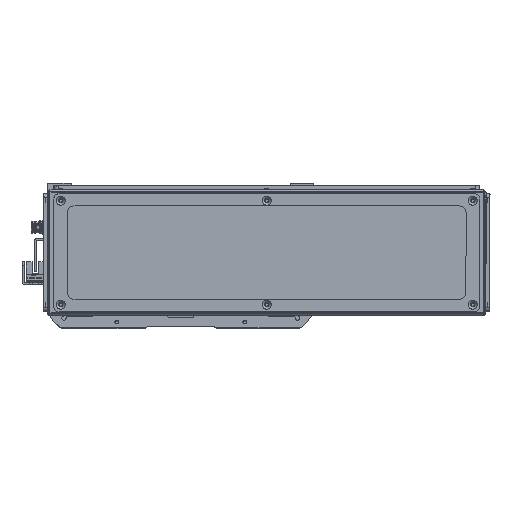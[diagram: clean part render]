
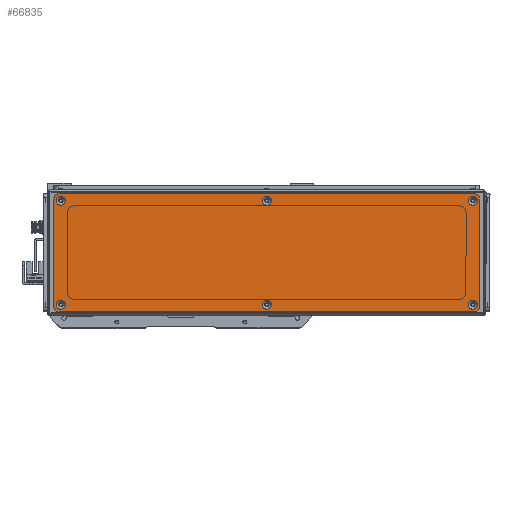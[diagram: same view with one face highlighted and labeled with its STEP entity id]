
A CAD part, front view. The second image highlights one B-rep face of the part: STEP entity #66835.
In plain terms, the highlighted planar face has unit normal (0, -1, 0).
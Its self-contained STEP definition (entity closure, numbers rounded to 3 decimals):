
#2963=FACE_BOUND('',#11445,.T.);
#2964=FACE_BOUND('',#11446,.T.);
#2965=FACE_BOUND('',#11447,.T.);
#2966=FACE_BOUND('',#11448,.T.);
#2967=FACE_BOUND('',#11449,.T.);
#2968=FACE_BOUND('',#11450,.T.);
#4287=CIRCLE('',#71890,3.45);
#4290=CIRCLE('',#71895,3.45);
#4293=CIRCLE('',#71900,3.45);
#4296=CIRCLE('',#71905,3.45);
#4299=CIRCLE('',#71910,3.45);
#4302=CIRCLE('',#71915,3.45);
#4305=CIRCLE('',#71920,3.);
#4307=CIRCLE('',#71923,3.);
#4308=CIRCLE('',#71924,3.);
#4309=CIRCLE('',#71925,3.);
#7616=FACE_OUTER_BOUND('',#11444,.T.);
#11444=EDGE_LOOP('',(#59569,#59570,#59571,#59572,#59573,#59574,#59575,#59576));
#11445=EDGE_LOOP('',(#59577));
#11446=EDGE_LOOP('',(#59578));
#11447=EDGE_LOOP('',(#59579));
#11448=EDGE_LOOP('',(#59580));
#11449=EDGE_LOOP('',(#59581));
#11450=EDGE_LOOP('',(#59582));
#18830=LINE('',#110042,#26320);
#18831=LINE('',#110046,#26321);
#18832=LINE('',#110050,#26322);
#18833=LINE('',#110053,#26323);
#26320=VECTOR('',#88303,10.);
#26321=VECTOR('',#88306,10.);
#26322=VECTOR('',#88309,10.);
#26323=VECTOR('',#88312,10.);
#32532=VERTEX_POINT('',#109972);
#32535=VERTEX_POINT('',#109982);
#32538=VERTEX_POINT('',#109992);
#32541=VERTEX_POINT('',#110002);
#32544=VERTEX_POINT('',#110012);
#32547=VERTEX_POINT('',#110022);
#32550=VERTEX_POINT('',#110032);
#32551=VERTEX_POINT('',#110033);
#32554=VERTEX_POINT('',#110041);
#32555=VERTEX_POINT('',#110043);
#32556=VERTEX_POINT('',#110045);
#32557=VERTEX_POINT('',#110047);
#32558=VERTEX_POINT('',#110049);
#32559=VERTEX_POINT('',#110051);
#41626=EDGE_CURVE('',#32532,#32532,#4287,.T.);
#41631=EDGE_CURVE('',#32535,#32535,#4290,.T.);
#41636=EDGE_CURVE('',#32538,#32538,#4293,.T.);
#41641=EDGE_CURVE('',#32541,#32541,#4296,.T.);
#41646=EDGE_CURVE('',#32544,#32544,#4299,.T.);
#41651=EDGE_CURVE('',#32547,#32547,#4302,.T.);
#41656=EDGE_CURVE('',#32550,#32551,#4305,.T.);
#41660=EDGE_CURVE('',#32550,#32554,#18830,.T.);
#41661=EDGE_CURVE('',#32555,#32554,#4307,.T.);
#41662=EDGE_CURVE('',#32555,#32556,#18831,.T.);
#41663=EDGE_CURVE('',#32557,#32556,#4308,.T.);
#41664=EDGE_CURVE('',#32557,#32558,#18832,.T.);
#41665=EDGE_CURVE('',#32559,#32558,#4309,.T.);
#41666=EDGE_CURVE('',#32559,#32551,#18833,.T.);
#59569=ORIENTED_EDGE('',*,*,#41656,.F.);
#59570=ORIENTED_EDGE('',*,*,#41660,.T.);
#59571=ORIENTED_EDGE('',*,*,#41661,.F.);
#59572=ORIENTED_EDGE('',*,*,#41662,.T.);
#59573=ORIENTED_EDGE('',*,*,#41663,.F.);
#59574=ORIENTED_EDGE('',*,*,#41664,.T.);
#59575=ORIENTED_EDGE('',*,*,#41665,.F.);
#59576=ORIENTED_EDGE('',*,*,#41666,.T.);
#59577=ORIENTED_EDGE('',*,*,#41626,.T.);
#59578=ORIENTED_EDGE('',*,*,#41631,.T.);
#59579=ORIENTED_EDGE('',*,*,#41636,.T.);
#59580=ORIENTED_EDGE('',*,*,#41641,.T.);
#59581=ORIENTED_EDGE('',*,*,#41646,.T.);
#59582=ORIENTED_EDGE('',*,*,#41651,.T.);
#63646=PLANE('',#71922);
#66835=ADVANCED_FACE('',(#7616,#2963,#2964,#2965,#2966,#2967,#2968),#63646,
 .T.);
#71890=AXIS2_PLACEMENT_3D('',#109973,#88223,#88224);
#71895=AXIS2_PLACEMENT_3D('',#109983,#88235,#88236);
#71900=AXIS2_PLACEMENT_3D('',#109993,#88247,#88248);
#71905=AXIS2_PLACEMENT_3D('',#110003,#88259,#88260);
#71910=AXIS2_PLACEMENT_3D('',#110013,#88271,#88272);
#71915=AXIS2_PLACEMENT_3D('',#110023,#88283,#88284);
#71920=AXIS2_PLACEMENT_3D('',#110034,#88295,#88296);
#71922=AXIS2_PLACEMENT_3D('',#110040,#88301,#88302);
#71923=AXIS2_PLACEMENT_3D('',#110044,#88304,#88305);
#71924=AXIS2_PLACEMENT_3D('',#110048,#88307,#88308);
#71925=AXIS2_PLACEMENT_3D('',#110052,#88310,#88311);
#88223=DIRECTION('center_axis',(0.,1.,0.));
#88224=DIRECTION('ref_axis',(1.,0.,0.));
#88235=DIRECTION('center_axis',(0.,1.,0.));
#88236=DIRECTION('ref_axis',(1.,0.,0.));
#88247=DIRECTION('center_axis',(0.,1.,0.));
#88248=DIRECTION('ref_axis',(1.,0.,0.));
#88259=DIRECTION('center_axis',(0.,1.,0.));
#88260=DIRECTION('ref_axis',(1.,0.,0.));
#88271=DIRECTION('center_axis',(0.,1.,0.));
#88272=DIRECTION('ref_axis',(1.,0.,0.));
#88283=DIRECTION('center_axis',(0.,1.,0.));
#88284=DIRECTION('ref_axis',(1.,0.,0.));
#88295=DIRECTION('center_axis',(0.,1.,0.));
#88296=DIRECTION('ref_axis',(-0.707,0.,0.707));
#88301=DIRECTION('center_axis',(0.,-1.,0.));
#88302=DIRECTION('ref_axis',(0.,0.,-1.));
#88303=DIRECTION('',(0.,0.,-1.));
#88304=DIRECTION('center_axis',(0.,1.,0.));
#88305=DIRECTION('ref_axis',(-0.707,0.,-0.707));
#88306=DIRECTION('',(1.,0.,0.));
#88307=DIRECTION('center_axis',(0.,1.,0.));
#88308=DIRECTION('ref_axis',(0.707,0.,-0.707));
#88309=DIRECTION('',(0.,0.,1.));
#88310=DIRECTION('center_axis',(0.,1.,0.));
#88311=DIRECTION('ref_axis',(0.707,0.,0.707));
#88312=DIRECTION('',(-1.,0.,0.));
#109972=CARTESIAN_POINT('',(151.05,-1.5,39.));
#109973=CARTESIAN_POINT('Origin',(154.5,-1.5,39.));
#109982=CARTESIAN_POINT('',(-3.45,-1.5,39.));
#109983=CARTESIAN_POINT('Origin',(0.,-1.5,39.));
#109992=CARTESIAN_POINT('',(-157.95,-1.5,39.));
#109993=CARTESIAN_POINT('Origin',(-154.5,-1.5,39.));
#110002=CARTESIAN_POINT('',(-157.95,-1.5,-39.));
#110003=CARTESIAN_POINT('Origin',(-154.5,-1.5,-39.));
#110012=CARTESIAN_POINT('',(-3.45,-1.5,-39.));
#110013=CARTESIAN_POINT('Origin',(0.,-1.5,-39.));
#110022=CARTESIAN_POINT('',(151.05,-1.5,-39.));
#110023=CARTESIAN_POINT('Origin',(154.5,-1.5,-39.));
#110032=CARTESIAN_POINT('',(-159.5,-1.5,41.));
#110033=CARTESIAN_POINT('',(-156.5,-1.5,44.));
#110034=CARTESIAN_POINT('Origin',(-156.5,-1.5,41.));
#110040=CARTESIAN_POINT('Origin',(0.,-1.5,0.));
#110041=CARTESIAN_POINT('',(-159.5,-1.5,-41.));
#110042=CARTESIAN_POINT('',(-159.5,-1.5,44.));
#110043=CARTESIAN_POINT('',(-156.5,-1.5,-44.));
#110044=CARTESIAN_POINT('Origin',(-156.5,-1.5,-41.));
#110045=CARTESIAN_POINT('',(156.5,-1.5,-44.));
#110046=CARTESIAN_POINT('',(-159.5,-1.5,-44.));
#110047=CARTESIAN_POINT('',(159.5,-1.5,-41.));
#110048=CARTESIAN_POINT('Origin',(156.5,-1.5,-41.));
#110049=CARTESIAN_POINT('',(159.5,-1.5,41.));
#110050=CARTESIAN_POINT('',(159.5,-1.5,-44.));
#110051=CARTESIAN_POINT('',(156.5,-1.5,44.));
#110052=CARTESIAN_POINT('Origin',(156.5,-1.5,41.));
#110053=CARTESIAN_POINT('',(159.5,-1.5,44.));
